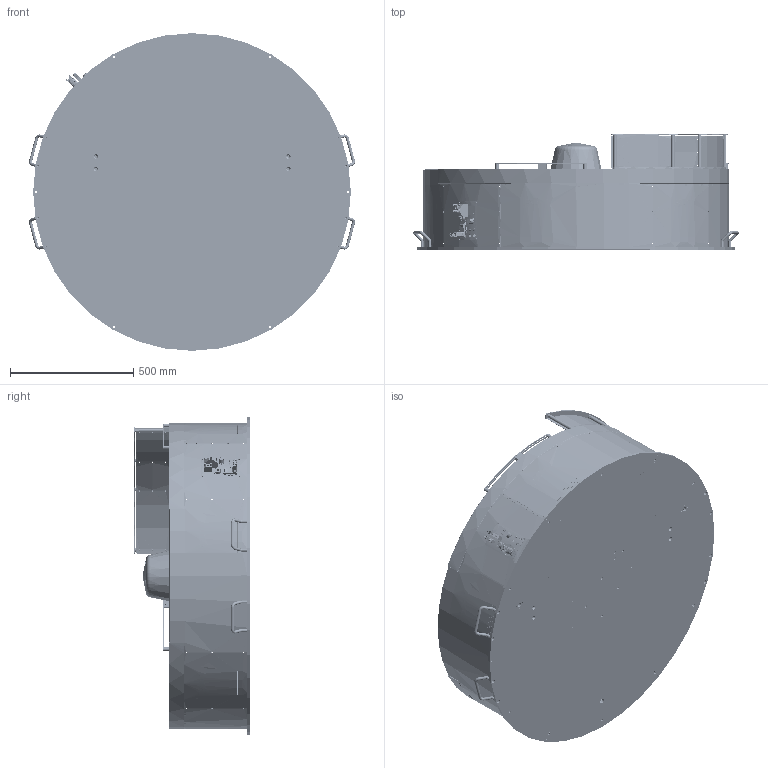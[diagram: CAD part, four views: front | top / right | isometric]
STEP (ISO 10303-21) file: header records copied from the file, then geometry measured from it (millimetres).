
FILE_DESCRIPTION (( 'STEP AP203' ), '1' );
FILE_NAME ('GM001465+quick emptying.STEP', '2025-10-23T07:36:48', ( '' ), ( '' ), 'SwSTEP 2.0', 'SolidWorks 2023', '' );
FILE_SCHEMA (( 'CONFIG_CONTROL_DESIGN' ));
Length unit declared in the file: millimetre
Products named in the file (44): PD003272; PD003261; CM000008_005; PD005301; PD006344; PD003267; CM002176; GM001465+quick emptying; PD003317; PD006337; PD003262; CE000276; CM000008_001; PD001360_FB500; PD003263; PD005306; CE000007; PD003219; CM000008_002; CE000005; CE000013; PD000043; PD007250; CM000008; CM000001; CM000686_002; PD003269; PD006333; PD003235; CM000008_003; CE000421; CM000686_001; CE000316; CM000686; CM000008_004; PD003274; PD003249; PD006343; PD001119; PD003244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
Assembly tree (66 placements, depth 3):
  GM001465+quick emptying
    PD008127
    PD007250
    PD003219
    PD003244
    PD003249
    PD006333
    CM002176  x6
    PD001360_FB500
    CE000007
    CE000013  x2
    CE000005
    CM000008
      CM000008_001
      CM000008_003  x2
      CM000008_002
      CM000008_004
      CM000008_005
    CE000316
    CM000686
      CM000686_001
      CM000686_002
    CE000276
    CE000420
    CE000421
    PD003261
    PD003235  x3
    PD006337  x3
    PD003267  x2
    PD000043  x4
    PD003263
    PD003272  x4
    PD003269
    PD003317
    PD001119  x2
    PD006343
    CM000001  x4
    PD003274
    PD003262
    PD006344
    GM001123
      PD005301  x2
      PD005305
      PD005306
Bounding box: 1322.61 x 469 x 1290 mm (x, y, z)
Volume: 35754502.3 mm3; surface area: 10863150.6 mm2
Topology: 66 solids, 85 shells, 7696 faces, 21248 edges, 14121 vertices
Faces by surface type: plane 3737, cylinder 2080, bspline 1394, cone 373, torus 89, sphere 23
Entity records: 394578 total; most frequent: CARTESIAN_POINT 219095, ORIENTED_EDGE 39332, DIRECTION 28305, EDGE_CURVE 19868, VERTEX_POINT 13339, AXIS2_PLACEMENT_3D 9953, EDGE_LOOP 8552, LINE 8399
